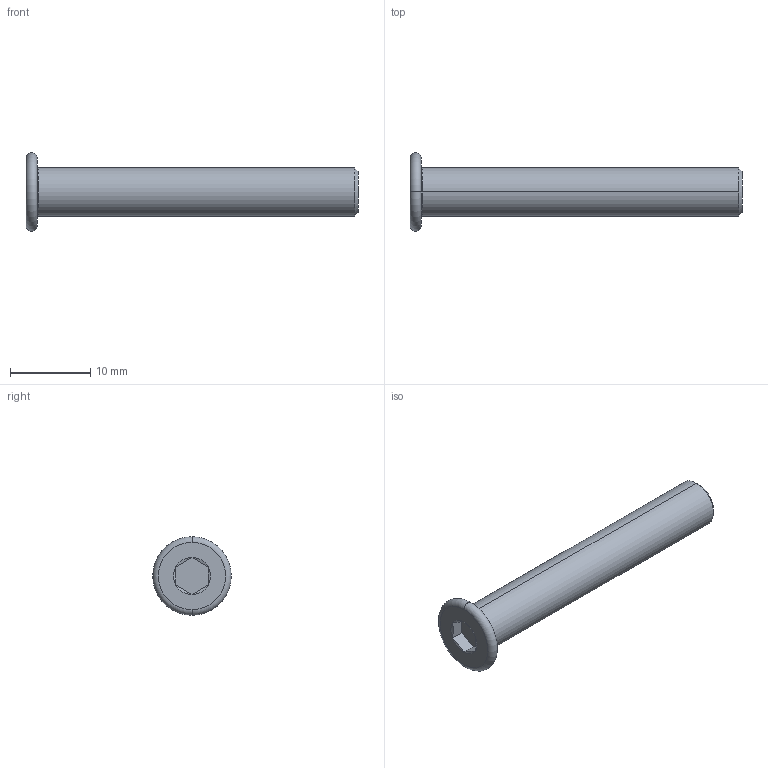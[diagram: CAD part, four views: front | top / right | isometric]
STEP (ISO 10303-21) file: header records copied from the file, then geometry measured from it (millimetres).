
FILE_DESCRIPTION (( 'STEP AP203' ), '1' );
FILE_NAME ('LGD-304M-M6x40.STEP', '2026-08-13T12:57:28', ( '' ), ( '' ), 'SwSTEP 2.0', 'SolidWorks 2020', '' );
FILE_SCHEMA (( 'CONFIG_CONTROL_DESIGN' ));
Length unit declared in the file: millimetre
Products named in the file (1): LGD-304M-M6x40
Bounding box: 41.4 x 9.8 x 9.8 mm (x, y, z)
Volume: 1206.6 mm3; surface area: 944.9 mm2
Topology: 1 solids, 1 shells, 24 faces, 44 edges, 24 vertices
Faces by surface type: plane 10, cone 8, torus 4, cylinder 2
Entity records: 673 total; most frequent: CARTESIAN_POINT 119, DIRECTION 110, ORIENTED_EDGE 88, AXIS2_PLACEMENT_3D 47, EDGE_CURVE 44, EDGE_LOOP 26, ADVANCED_FACE 24, VERTEX_POINT 24
